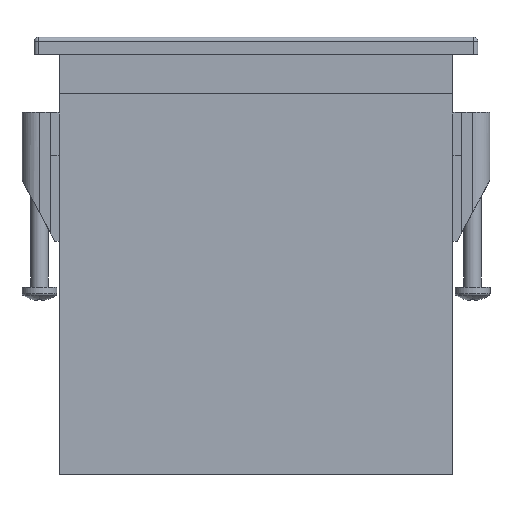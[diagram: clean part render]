
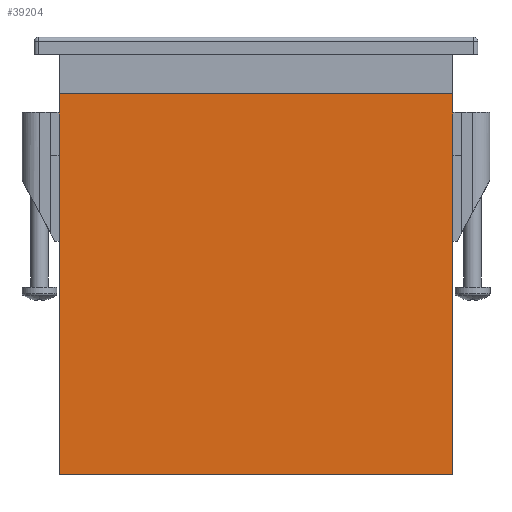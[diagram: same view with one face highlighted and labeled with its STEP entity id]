
A CAD part, front view. The second image highlights one B-rep face of the part: STEP entity #39204.
In plain terms, the highlighted planar face has unit normal (0, -1, 0).
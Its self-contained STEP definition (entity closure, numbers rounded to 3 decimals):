
#2126 = VERTEX_POINT ( 'NONE', #49973 ) ;
#4124 = DIRECTION ( 'NONE',  ( 0., 0., 1. ) ) ;
#4468 = CARTESIAN_POINT ( 'NONE',  ( 90., 0., -87.1 ) ) ;
#7003 = VECTOR ( 'NONE', #50245, 1000. ) ;
#8532 = VERTEX_POINT ( 'NONE', #20017 ) ;
#11379 = DIRECTION ( 'NONE',  ( 0., 0., -1. ) ) ;
#13509 = EDGE_CURVE ( 'NONE', #39995, #2126, #18649, .T. ) ;
#18162 = CARTESIAN_POINT ( 'NONE',  ( 0., 0., 0. ) ) ;
#18649 = LINE ( 'NONE', #28402, #7003 ) ;
#19754 = ORIENTED_EDGE ( 'NONE', *, *, #48535, .F. ) ;
#20017 = CARTESIAN_POINT ( 'NONE',  ( 0., 0., -87.1 ) ) ;
#20923 = EDGE_CURVE ( 'NONE', #2126, #8532, #55812, .T. ) ;
#21492 = PLANE ( 'NONE',  #43118 ) ;
#22548 = DIRECTION ( 'NONE',  ( 0., 0., -1. ) ) ;
#26645 = EDGE_CURVE ( 'NONE', #54335, #8532, #45703, .T. ) ;
#28402 = CARTESIAN_POINT ( 'NONE',  ( 90., 0., 0. ) ) ;
#30262 = DIRECTION ( 'NONE',  ( 0., 1., 0. ) ) ;
#32520 = VECTOR ( 'NONE', #22548, 1000. ) ;
#34047 = VECTOR ( 'NONE', #52659, 1000. ) ;
#37111 = EDGE_LOOP ( 'NONE', ( #48912, #46882, #19754, #54833 ) ) ;
#39204 = ADVANCED_FACE ( 'NONE', ( #45035 ), #21492, .F. ) ;
#39995 = VERTEX_POINT ( 'NONE', #44146 ) ;
#43118 = AXIS2_PLACEMENT_3D ( 'NONE', #56493, #30262, #4124 ) ;
#44146 = CARTESIAN_POINT ( 'NONE',  ( 90., 0., 0. ) ) ;
#44555 = CARTESIAN_POINT ( 'NONE',  ( 90., 0., -87.1 ) ) ;
#45035 = FACE_OUTER_BOUND ( 'NONE', #37111, .T. ) ;
#45703 = LINE ( 'NONE', #4468, #34047 ) ;
#46179 = CARTESIAN_POINT ( 'NONE',  ( 90., 0., 0. ) ) ;
#46882 = ORIENTED_EDGE ( 'NONE', *, *, #26645, .F. ) ;
#48535 = EDGE_CURVE ( 'NONE', #39995, #54335, #51575, .T. ) ;
#48912 = ORIENTED_EDGE ( 'NONE', *, *, #20923, .T. ) ;
#49973 = CARTESIAN_POINT ( 'NONE',  ( 0., 0., 0. ) ) ;
#50226 = VECTOR ( 'NONE', #11379, 1000. ) ;
#50245 = DIRECTION ( 'NONE',  ( -1., 0., 0. ) ) ;
#51575 = LINE ( 'NONE', #46179, #50226 ) ;
#52659 = DIRECTION ( 'NONE',  ( -1., 0., 0. ) ) ;
#54335 = VERTEX_POINT ( 'NONE', #44555 ) ;
#54833 = ORIENTED_EDGE ( 'NONE', *, *, #13509, .T. ) ;
#55812 = LINE ( 'NONE', #18162, #32520 ) ;
#56493 = CARTESIAN_POINT ( 'NONE',  ( 90., 0., 0. ) ) ;
